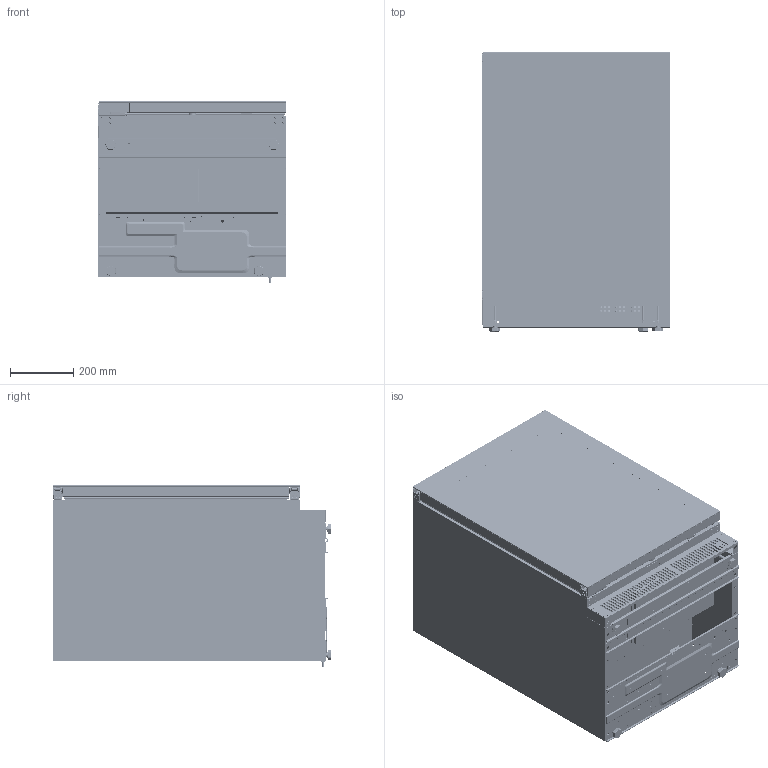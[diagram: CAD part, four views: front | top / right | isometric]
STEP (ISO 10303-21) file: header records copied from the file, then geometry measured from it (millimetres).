
FILE_DESCRIPTION((''),'2;1');
FILE_NAME('PRT0001','2025-04-25T12:03:34',('vii'),(''),'CREO PARAMETRIC BY PTC INC, 2018050','CREO PARAMETRIC BY PTC INC, 2018050','');
FILE_SCHEMA(('CONFIG_CONTROL_DESIGN','SHAPE_APPEARANCE_LAYERS_GROUPS'));
Products named in the file (1): PRT0001
Bounding box: 595.99 x 880.68 x 572.84 mm (x, y, z)
Surface area: 8055129.4 mm2 (no closed solid volume)
Topology: 0 solids, 51 shells, 7554 faces, 20139 edges, 12610 vertices
Faces by surface type: plane 3738, cylinder 2716, torus 454, bspline 276, cone 174, sphere 153, extrusion 43
Entity records: 297314 total; most frequent: CARTESIAN_POINT 62175, ORIENTED_EDGE 39964, DIRECTION 39161, EDGE_CURVE 19982, AXIS2_PLACEMENT_3D 13701, VERTEX_POINT 12610, VECTOR 11759, LINE 11717
